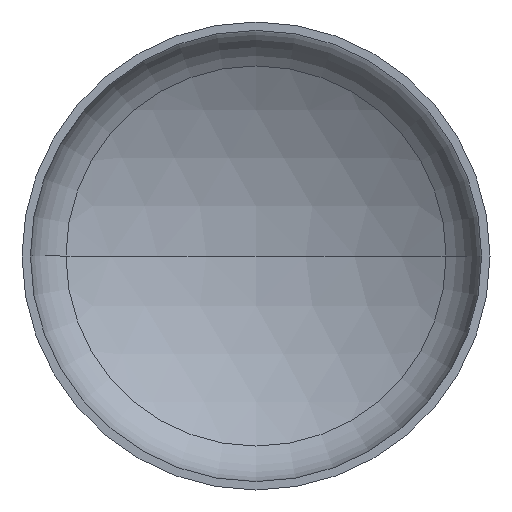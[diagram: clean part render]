
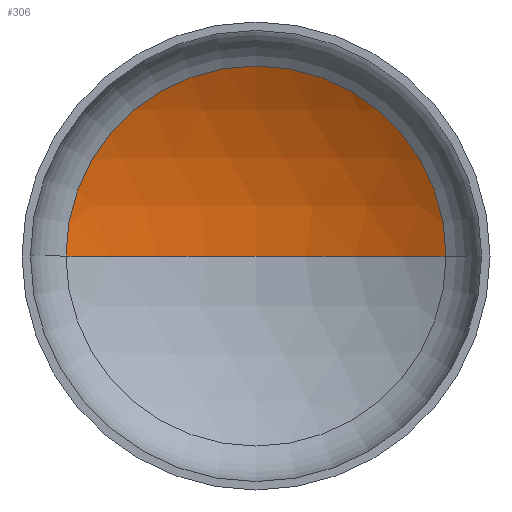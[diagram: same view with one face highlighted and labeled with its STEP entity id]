
A CAD part, front view. The second image highlights one B-rep face of the part: STEP entity #306.
In plain terms, the highlighted spherical face has radius 4800 mm.
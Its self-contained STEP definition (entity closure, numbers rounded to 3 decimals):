
#17 = CIRCLE ( 'NONE', #82, 4800. ) ;
#20 = ORIENTED_EDGE ( 'NONE', *, *, #147, .T. ) ;
#25 = AXIS2_PLACEMENT_3D ( 'NONE', #272, #266, #150 ) ;
#28 = CARTESIAN_POINT ( 'NONE',  ( -2436.542, 871.966, 0. ) ) ;
#49 = VERTEX_POINT ( 'NONE', #348 ) ;
#58 = VERTEX_POINT ( 'NONE', #350 ) ;
#73 = AXIS2_PLACEMENT_3D ( 'NONE', #207, #205, #224 ) ;
#78 = EDGE_LOOP ( 'NONE', ( #208, #20, #215 ) ) ;
#82 = AXIS2_PLACEMENT_3D ( 'NONE', #326, #296, #298 ) ;
#87 = AXIS2_PLACEMENT_3D ( 'NONE', #337, #332, #334 ) ;
#103 = VERTEX_POINT ( 'NONE', #28 ) ;
#104 = SPHERICAL_SURFACE ( 'NONE', #25, 4800. ) ;
#142 = EDGE_CURVE ( 'NONE', #49, #103, #182, .T. ) ;
#147 = EDGE_CURVE ( 'NONE', #58, #49, #17, .T. ) ;
#149 = EDGE_CURVE ( 'NONE', #58, #103, #359, .T. ) ;
#150 = DIRECTION ( 'NONE',  ( -1., 0., 0. ) ) ;
#182 = CIRCLE ( 'NONE', #87, 2436.542 ) ;
#205 = DIRECTION ( 'NONE',  ( 0., 0., 1. ) ) ;
#207 = CARTESIAN_POINT ( 'NONE',  ( 0., -3263.643, 0. ) ) ;
#208 = ORIENTED_EDGE ( 'NONE', *, *, #149, .F. ) ;
#215 = ORIENTED_EDGE ( 'NONE', *, *, #142, .T. ) ;
#224 = DIRECTION ( 'NONE',  ( 1., 0., 0. ) ) ;
#266 = DIRECTION ( 'NONE',  ( 0., 0., -1. ) ) ;
#272 = CARTESIAN_POINT ( 'NONE',  ( 0., -3263.643, 0. ) ) ;
#281 = FACE_OUTER_BOUND ( 'NONE', #78, .T. ) ;
#296 = DIRECTION ( 'NONE',  ( 0., 0., -1. ) ) ;
#298 = DIRECTION ( 'NONE',  ( -1., 0., 0. ) ) ;
#306 = ADVANCED_FACE ( 'NONE', ( #281 ), #104, .F. ) ;
#326 = CARTESIAN_POINT ( 'NONE',  ( 0., -3263.643, 0. ) ) ;
#332 = DIRECTION ( 'NONE',  ( 0., -1., 0. ) ) ;
#334 = DIRECTION ( 'NONE',  ( 1., 0., 0. ) ) ;
#337 = CARTESIAN_POINT ( 'NONE',  ( 0., 871.966, 0. ) ) ;
#348 = CARTESIAN_POINT ( 'NONE',  ( 2436.542, 871.966, 0. ) ) ;
#350 = CARTESIAN_POINT ( 'NONE',  ( 0., 1536.357, 0. ) ) ;
#359 = CIRCLE ( 'NONE', #73, 4800. ) ;
